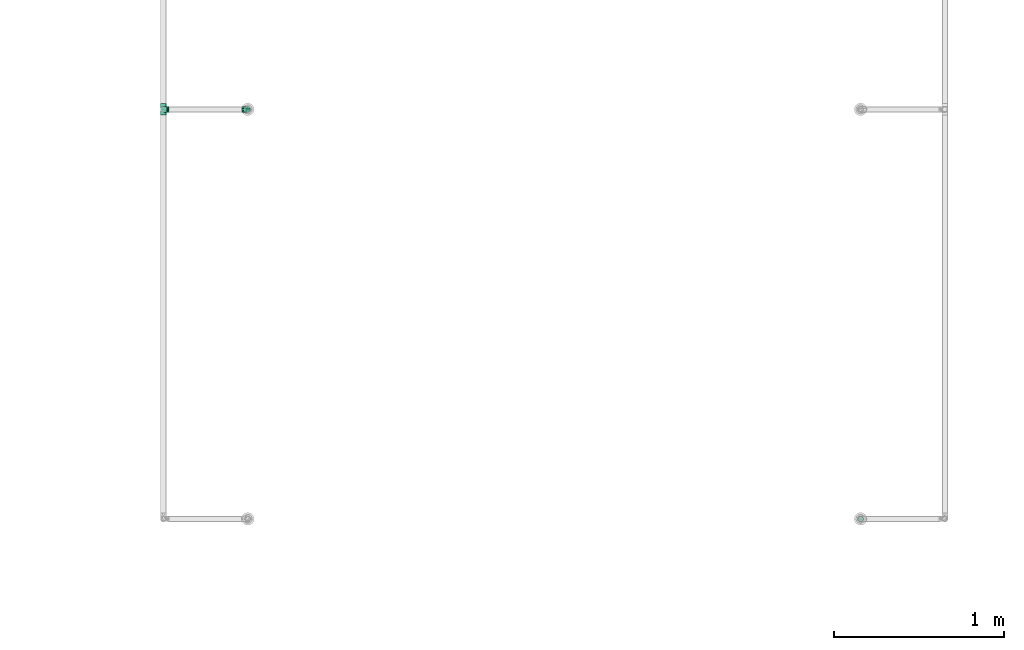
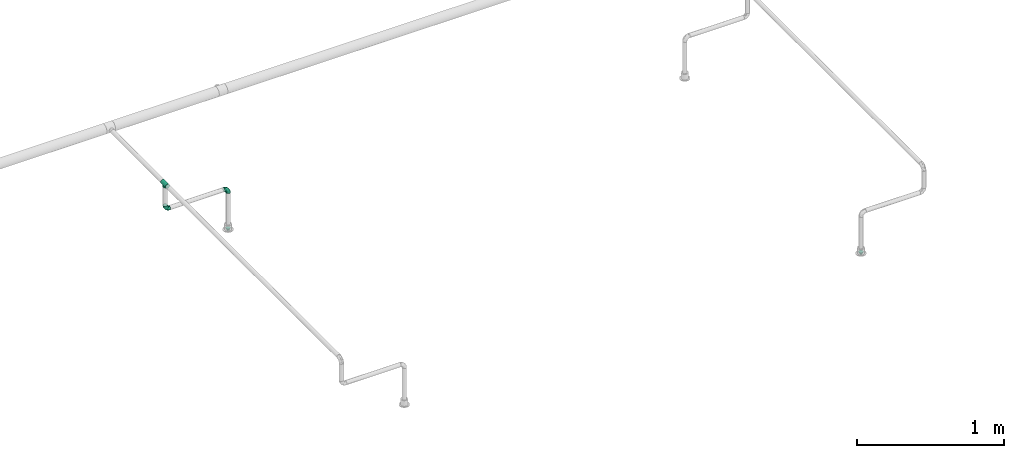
# One storey, part 75 of 95: 5 flow fittings.
"""IFC2X3 building model written with IfcOpenShell, lengths in millimetres."""

from ifc_helpers import new_model, entity, si_unit, converted_unit, derived_unit, direction, frame, origin_with_axes, place, context, subcontext, project, spatial, open_shell, surface_model, source, transform, mapped, type_object, element, save


model = new_model("IFC2X3")

# Units and contexts
model_context = context("Model", 3, precision=0.01, world=frame((0.0, 4.29681676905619e-09, 0.0)), true_north=direction((4.01073788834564e-13, 1.0)))
plan_context = context("Plan", 3, precision=0.01, world=frame((0.0, 4.29681676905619e-09, 0.0)), true_north=direction((4.01073788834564e-13, 1.0)))
body_context = subcontext(model_context, "Body", "Model", "MODEL_VIEW")
ifc_project = project(units=[converted_unit("PLANEANGLEUNIT", "DEGREE", entity("IfcPositiveLengthMeasure", 0.0174532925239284), si_unit("PLANEANGLEUNIT", "RADIAN"), dimensions=[0, 0, 0, 0, 0, 0, 0]), si_unit("AREAUNIT", "SQUARE_METRE"), si_unit("LENGTHUNIT", "METRE", prefix="MILLI"), si_unit("MASSUNIT", "GRAM", prefix="KILO"), si_unit("POWERUNIT", "WATT"), si_unit("PRESSUREUNIT", "PASCAL"), si_unit("FORCEUNIT", "NEWTON", prefix="KILO"), si_unit("ELECTRICVOLTAGEUNIT", "VOLT"), si_unit("ELECTRICCURRENTUNIT", "AMPERE"), si_unit("THERMODYNAMICTEMPERATUREUNIT", "DEGREE_CELSIUS"), si_unit("TIMEUNIT", "SECOND"), si_unit("VOLUMEUNIT", "CUBIC_METRE"), derived_unit("LINEARVELOCITYUNIT", [(si_unit("LENGTHUNIT", "METRE"), 1), (si_unit("TIMEUNIT", "SECOND"), -1)]), derived_unit("VOLUMETRICFLOWRATEUNIT", [(si_unit("VOLUMEUNIT", "CUBIC_METRE"), 1), (si_unit("TIMEUNIT", "SECOND"), -1)]), derived_unit("THERMALTRANSMITTANCEUNIT", [(si_unit("POWERUNIT", "WATT"), 1), (si_unit("THERMODYNAMICTEMPERATUREUNIT", "KELVIN"), -1), (si_unit("AREAUNIT", "SQUARE_METRE"), -1)]), derived_unit("SOUNDPRESSUREUNIT", [(si_unit("PRESSUREUNIT", "PASCAL"), 1)])], contexts=[model_context, plan_context])

# Site, building, storey
site_placement = place(None, frame((0.0, -4.29681676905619e-09, 0.0), z_axis=(0.0, 0.0, 1.0), x_axis=(1.0, 0.0, 0.0)))
site = spatial("IfcSite", under=ifc_project, at=site_placement, CompositionType="ELEMENT")
building_placement = place(site_placement, frame((0.0, 4.29681676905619e-09, 0.0), z_axis=(0.0, 0.0, 1.0), x_axis=(1.0, 0.0, 0.0)))
building = spatial("IfcBuilding", under=site, at=building_placement, Name="mc-building", CompositionType="ELEMENT")
storey_placement = place(building_placement, frame((0.0, 0.0, 210900.0), z_axis=(0.0, 0.0, 1.0), x_axis=(1.0, 0.0, 0.0)))
storey = spatial("IfcBuildingStorey", under=building, at=storey_placement, Name="Nivå F", CompositionType="ELEMENT", Elevation=210900.0)

# Flow fittings
pipe_fitting_type_1 = type_object("IfcPipeFittingType", Name="magi_pipe_fe_reducer_centric_short_NOR", PredefinedType="TRANSITION")
shared_shape_1 = source(origin_with_axes(), body_context, "Body", "SurfaceModel", [
    surface_model("IfcShellBasedSurfaceModel", [(14.4, 5.35, -9.26647), (14.4, 0.0, -10.7), (14.4, 2.76936, -10.33541), (14.4, 10.33541, -2.76936), (14.4, 7.56604, -7.56604), (14.4, -10.33541, -2.76936), (14.4, 9.26647, -5.35), (14.4, 0.0, 10.7), (14.4, -5.35, -9.26647), (14.4, -2.76936, -10.33541), (14.4, -7.56604, -7.56604), (14.4, -9.26647, -5.35), (14.4, 10.7, 0.0), (14.4, 10.33541, 2.76936), (14.4, 9.26647, 5.35), (14.4, 7.56604, 7.56604), (14.4, 2.76936, 10.33541), (14.4, 5.35, 9.26647), (14.4, -10.33541, 2.76936), (14.4, -7.56604, 7.56604), (14.4, -9.26647, 5.35), (14.4, -10.7, 0.0), (14.4, -2.76936, 10.33541), (14.4, -5.35, 9.26647), (12.4, 2.76936, 10.33541), (12.4, -10.33541, -2.76936), (12.4, 0.0, 10.7), (12.4, 5.35, 9.26647), (12.4, 7.56604, 7.56604), (12.4, 9.26647, 5.35), (12.4, 10.33541, 2.76936), (12.4, -10.33541, 2.76936), (12.4, -2.76936, 10.33541), (12.4, -7.56604, 7.56604), (12.4, -5.35, 9.26647), (12.4, -9.26647, 5.35), (12.4, -10.7, 0.0), (12.4, 10.33541, -2.76936), (12.4, 5.35, -9.26647), (12.4, 9.26647, -5.35), (12.4, 7.56604, -7.56604), (12.4, 2.76936, -10.33541), (12.4, -9.26647, -5.35), (12.4, -5.35, -9.26647), (12.4, -7.56604, -7.56604), (12.4, 0.0, -10.7), (12.4, -2.76936, -10.33541), (12.4, 10.7, 0.0), (-2.0, 11.9501, 11.9501), (-2.0, 0.0, 16.9), (-2.0, 4.37404, 16.32415), (-2.0, 8.45, 14.63583), (-2.0, 14.63583, 8.45), (-2.0, 16.32415, 4.37404), (-2.0, -16.32415, 4.37404), (-2.0, -8.45, 14.63583), (-2.0, -14.63583, 8.45), (-2.0, -11.9501, 11.9501), (-2.0, -4.37404, 16.32415), (-2.0, -16.32415, -4.37404), (-2.0, -16.9, 0.0), (-2.0, -8.45, -14.63583), (-2.0, 16.32415, -4.37404), (-2.0, 11.9501, -11.9501), (-2.0, 14.63583, -8.45), (-2.0, 8.45, -14.63583), (-2.0, 4.37404, -16.32415), (-2.0, 0.0, -16.9), (-2.0, -11.9501, -11.9501), (-2.0, -14.63583, -8.45), (-2.0, -4.37404, -16.32415), (-2.0, 16.9, 0.0), (0.0, 4.37404, -16.32415), (0.0, 8.45, -14.63583), (0.0, 11.9501, -11.9501), (0.0, 0.0, -16.9), (0.0, 16.32415, -4.37404), (0.0, 16.32415, 4.37404), (0.0, 14.63583, -8.45), (0.0, -8.45, -14.63583), (0.0, -4.37404, -16.32415), (0.0, -11.9501, -11.9501), (0.0, -16.32415, -4.37404), (0.0, -14.63583, -8.45), (0.0, -16.32415, 4.37404), (0.0, 16.9, 0.0), (0.0, 14.63583, 8.45), (0.0, 11.9501, 11.9501), (0.0, 4.37404, 16.32415), (0.0, 8.45, 14.63583), (0.0, 0.0, 16.9), (0.0, -14.63583, 8.45), (0.0, -16.9, 0.0), (0.0, -8.45, 14.63583), (0.0, -11.9501, 11.9501), (0.0, -4.37404, 16.32415), (12.4, 9.3625, -2.31662), (0.0, 14.42505, -5.97505), (0.0, 15.66253, -2.98753), (12.4, -6.6875, -6.94985), (0.0, -13.18758, -8.96258), (0.0, 2.98753, -15.66253), (12.4, 0.0, -9.26647), (12.4, 6.6875, -6.94985), (0.0, 8.96258, -13.18758), (12.4, -9.3625, -2.31662), (0.0, -15.66253, -2.98753), (0.0, -14.42505, -5.97505), (0.0, 5.97505, -14.42505), (0.0, -2.98753, -15.66253), (0.0, -8.96258, -13.18758), (0.0, 13.18758, -8.96258), (12.4, 8.025, -4.63324), (12.4, -2.675, -9.26647), (12.4, 2.675, -9.26647), (0.0, -5.97505, -14.42505), (12.4, -8.025, -4.63324), (12.4, -9.3625, 2.31662), (0.0, -14.42505, 5.97505), (0.0, -15.66253, 2.98753), (12.4, 6.6875, 6.94985), (0.0, 13.18758, 8.96258), (0.0, -2.98753, 15.66253), (12.4, 0.0, 9.26647), (12.4, -6.6875, 6.94985), (0.0, -8.96258, 13.18758), (12.4, 9.3625, 2.31662), (0.0, 15.66253, 2.98753), (0.0, 14.42505, 5.97505), (0.0, -5.97505, 14.42505), (0.0, 2.98753, 15.66253), (0.0, 8.96258, 13.18758), (0.0, -13.18758, 8.96258), (12.4, -8.025, 4.63324), (12.4, 2.675, 9.26647), (12.4, -2.675, 9.26647), (0.0, 5.97505, 14.42505), (12.4, 8.025, 4.63324)], [open_shell([[[0, 1, 2]], [[3, 0, 4]], [[5, 0, 3]], [[3, 4, 6]], [[7, 5, 3]], [[1, 8, 9]], [[1, 0, 8]], [[10, 5, 11]], [[5, 10, 8]], [[0, 5, 8]], [[3, 12, 13]], [[13, 14, 15]], [[13, 15, 16]], [[7, 3, 16]], [[16, 15, 17]], [[7, 18, 5]], [[18, 19, 20]], [[21, 5, 18]], [[19, 22, 23]], [[22, 19, 18]], [[7, 22, 18]], [[13, 16, 3]], [[24, 25, 26]], [[27, 25, 24]], [[28, 29, 30]], [[28, 25, 27]], [[31, 26, 25]], [[32, 33, 34]], [[33, 32, 31]], [[33, 31, 35]], [[32, 26, 31]], [[31, 25, 36]], [[30, 37, 28]], [[25, 28, 37]], [[38, 37, 39]], [[37, 38, 25]], [[38, 39, 40]], [[41, 25, 38]], [[42, 43, 44]], [[43, 42, 25]], [[43, 45, 46]], [[43, 25, 41]], [[41, 45, 43]], [[37, 30, 47]], [[25, 5, 36]], [[42, 11, 25]], [[8, 44, 43]], [[42, 44, 10]], [[9, 43, 46]], [[25, 11, 5]], [[5, 21, 36]], [[9, 8, 43]], [[10, 44, 8]], [[10, 11, 42]], [[1, 9, 46]], [[46, 45, 1]], [[41, 2, 45]], [[38, 0, 41]], [[6, 40, 39]], [[38, 40, 4]], [[3, 39, 37]], [[38, 4, 0]], [[0, 2, 41]], [[12, 3, 37]], [[6, 39, 3]], [[6, 4, 40]], [[47, 12, 37]], [[45, 2, 1]], [[30, 13, 47]], [[29, 14, 30]], [[17, 28, 27]], [[29, 28, 15]], [[16, 27, 24]], [[30, 14, 13]], [[13, 12, 47]], [[16, 17, 27]], [[15, 28, 17]], [[15, 14, 29]], [[7, 16, 24]], [[24, 26, 7]], [[32, 22, 26]], [[34, 23, 32]], [[20, 33, 35]], [[34, 33, 19]], [[18, 35, 31]], [[34, 19, 23]], [[23, 22, 32]], [[21, 18, 31]], [[20, 35, 18]], [[20, 19, 33]], [[36, 21, 31]], [[26, 22, 7]], [[48, 49, 50]], [[48, 50, 51]], [[48, 52, 53]], [[48, 53, 49]], [[49, 53, 54]], [[55, 56, 57]], [[55, 58, 49]], [[56, 55, 49]], [[49, 54, 56]], [[54, 59, 60]], [[54, 53, 61]], [[53, 62, 63]], [[63, 62, 64]], [[63, 65, 66]], [[61, 53, 63]], [[67, 63, 66]], [[59, 68, 69]], [[68, 59, 61]], [[61, 67, 70]], [[59, 54, 61]], [[63, 67, 61]], [[53, 71, 62]], [[72, 73, 74]], [[75, 72, 74]], [[74, 76, 77]], [[76, 74, 78]], [[74, 77, 79]], [[75, 79, 80]], [[75, 74, 79]], [[81, 82, 83]], [[82, 81, 79]], [[79, 84, 82]], [[77, 76, 85]], [[77, 86, 87]], [[77, 87, 88]], [[88, 84, 79]], [[88, 87, 89]], [[84, 88, 90]], [[90, 91, 84]], [[92, 82, 84]], [[91, 93, 94]], [[91, 90, 93]], [[93, 90, 95]], [[79, 77, 88]], [[59, 82, 60]], [[69, 83, 59]], [[79, 68, 61]], [[69, 68, 81]], [[80, 61, 70]], [[59, 83, 82]], [[82, 92, 60]], [[80, 79, 61]], [[81, 68, 79]], [[81, 83, 69]], [[75, 80, 70]], [[70, 67, 75]], [[66, 72, 67]], [[65, 73, 66]], [[78, 63, 64]], [[65, 63, 74]], [[76, 64, 62]], [[65, 74, 73]], [[73, 72, 66]], [[85, 76, 62]], [[78, 64, 76]], [[78, 74, 63]], [[71, 85, 62]], [[67, 72, 75]], [[53, 77, 71]], [[52, 86, 53]], [[89, 48, 51]], [[52, 48, 87]], [[88, 51, 50]], [[53, 86, 77]], [[77, 85, 71]], [[88, 89, 51]], [[87, 48, 89]], [[87, 86, 52]], [[90, 88, 50]], [[50, 49, 90]], [[58, 95, 49]], [[55, 93, 58]], [[91, 57, 56]], [[55, 57, 94]], [[84, 56, 54]], [[55, 94, 93]], [[93, 95, 58]], [[92, 84, 54]], [[91, 56, 84]], [[91, 94, 57]], [[60, 92, 54]], [[49, 95, 90]], [[27, 34, 47]], [[47, 34, 43]], [[43, 38, 47]], [[43, 34, 36]], [[90, 87, 94]], [[92, 94, 87]], [[87, 74, 92]], [[75, 92, 74]], [[81, 92, 75]], [[74, 87, 85]], [[96, 97, 98]], [[81, 99, 100]], [[101, 102, 75]], [[98, 85, 47]], [[74, 103, 104]], [[104, 103, 38]], [[105, 106, 107]], [[38, 108, 104]], [[102, 109, 75]], [[110, 99, 81]], [[47, 96, 98]], [[103, 111, 112]], [[109, 102, 113]], [[36, 92, 106]], [[102, 101, 114]], [[110, 115, 43]], [[96, 112, 97]], [[107, 116, 105]], [[36, 106, 105]], [[113, 115, 109]], [[43, 115, 113]], [[116, 107, 100]], [[108, 38, 114]], [[111, 103, 74]], [[111, 97, 112]], [[99, 110, 43]], [[116, 100, 99]], [[101, 108, 114]], [[117, 118, 119]], [[87, 120, 121]], [[122, 123, 90]], [[119, 92, 36]], [[94, 124, 125]], [[125, 124, 34]], [[126, 127, 128]], [[34, 129, 125]], [[123, 130, 90]], [[131, 120, 87]], [[36, 117, 119]], [[124, 132, 133]], [[130, 123, 134]], [[47, 85, 127]], [[123, 122, 135]], [[131, 136, 27]], [[117, 133, 118]], [[128, 137, 126]], [[47, 127, 126]], [[134, 136, 130]], [[27, 136, 134]], [[137, 128, 121]], [[129, 34, 135]], [[132, 124, 94]], [[132, 118, 133]], [[120, 131, 27]], [[137, 121, 120]], [[122, 129, 135]]])]),
])
for number, where, z_axis, x_axis, name in (
    (1, (523297.57166, 461000.75899, 3769.25200000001), (0.0, -1.0, 0.0), (0.0, 0.0, -1.0), "magi_pipe_fe_reducer_centric_short_NOR"),
    (2, (526893.09321, 458598.02191, 3769.25200000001), (0.0, -1.0, 0.0), (0.0, 0.0, -1.0), "magi_pipe_fe_reducer_centric_short_NOR"),
):
    element("IfcFlowFitting", number, at=place(storey_placement, frame(where, z_axis=z_axis, x_axis=x_axis)), inside=storey, type_object=pipe_fitting_type_1, Name=name, context=body_context, shape_type="MappedRepresentation", body=[
        mapped(shared_shape_1, transform((0.0, 0.0, 0.0), scale=1.0)),
    ])
pipe_fitting_type_2 = type_object("IfcPipeFittingType", Name="magi_pipe_fe_elbow_short_001", PredefinedType="BEND")
shared_shape_2 = source(origin_with_axes(), body_context, "Body", "SurfaceModel", [
    surface_model("IfcShellBasedSurfaceModel", [(-33.8, 8.45, -14.63583), (-33.8, 4.37404, -16.32415), (-33.8, 11.9501, -11.9501), (-33.8, -11.9501, -11.9501), (-33.8, -14.63583, -8.45), (-33.8, -8.45, -14.63583), (-33.8, 0.0, -16.9), (-33.8, -4.37404, -16.32415), (-33.8, -4.37404, 16.32415), (-33.8, 0.0, 16.9), (-33.8, -8.45, 14.63583), (-33.8, 16.32415, -4.37404), (-33.8, 14.63583, -8.45), (-33.8, -16.32415, -4.37404), (-33.8, -16.9, 0.0), (-33.8, -16.32415, 4.37404), (-33.8, 11.9501, 11.9501), (-33.8, 14.63583, 8.45), (-33.8, 16.32415, 4.37404), (-33.8, 4.37404, 16.32415), (-33.8, 8.45, 14.63583), (-33.8, -14.63583, 8.45), (-33.8, -11.9501, 11.9501), (-33.8, 16.9, 0.0), (-11.9501, 33.8, -11.9501), (0.0, 33.8, -16.9), (-4.37404, 33.8, -16.32415), (-8.45, 33.8, -14.63583), (-14.63583, 33.8, -8.45), (-16.32415, 33.8, -4.37404), (14.63583, 33.8, -8.45), (8.45, 33.8, 14.63583), (16.32415, 33.8, -4.37404), (8.45, 33.8, -14.63583), (11.9501, 33.8, -11.9501), (4.37404, 33.8, -16.32415), (16.32415, 33.8, 4.37404), (16.9, 33.8, 0.0), (-11.9501, 33.8, 11.9501), (-16.32415, 33.8, 4.37404), (-14.63583, 33.8, 8.45), (-8.45, 33.8, 14.63583), (-4.37404, 33.8, 16.32415), (11.9501, 33.8, 11.9501), (14.63583, 33.8, 8.45), (0.0, 33.8, 16.9), (4.37404, 33.8, 16.32415), (-16.9, 33.8, 0.0), (-24.79389, -13.12945, 9.48721), (-22.19287, -9.75018, 12.59315), (-24.09897, -14.97035, 0.0), (-14.93934, -10.76256, 8.5297), (-22.46095, -14.75051, 5.27077), (14.75051, 22.46094, 5.27077), (11.9251, 13.23888, 4.33236), (13.04069, 14.39795, 0.0), (7.71387, 13.68847, 11.55891), (9.75018, 22.19287, 12.59315), (4.10169, 13.0571, 14.04018), (-24.84007, -6.39063, 15.2048), (-25.81779, -2.23879, 16.61097), (-23.66549, 2.59054, 16.87119), (-26.50418, 14.06512, 11.08152), (-24.21253, 17.66365, 7.72657), (-29.58514, 15.86957, 7.00283), (-6.17382, -7.5455, 0.0), (-13.23888, -11.9251, 4.33236), (-14.39795, -13.04069, 0.0), (-17.81434, 18.87373, 11.97104), (-6.30846, 29.15138, 15.82987), (-2.31622, 25.28002, 16.85849), (-29.23923, 10.23435, 13.77053), (-1.45439, -2.85688, 7.61475), (-0.28326, 0.34872, 10.09509), (-5.74484, -4.04709, 10.4122), (-4.41137, 11.31918, 16.59407), (-8.39727, 3.10034, 15.7812), (-1.72649, 9.1306, 15.53089), (-17.39909, 24.75344, 7.64977), (-26.19233, 20.0512, 0.0), (-28.14518, 17.29657, 4.25857), (-26.05147, 6.6281, 15.96447), (-5.87354, 16.61944, 16.86968), (-12.51807, 12.51807, 16.48937), (-10.06312, 7.38516, 16.81295), (-3.01882, 3.01882, 13.81718), (-13.0571, -4.10169, 14.04018), (-16.82553, -0.15166, 16.38038), (10.76256, 14.93934, 8.5297), (13.12945, 24.79389, 9.48721), (6.39063, 24.84007, 15.2048), (2.23879, 25.81779, 16.61097), (-13.68847, -7.71387, 11.55891), (14.97035, 24.09897, 0.0), (-7.30894, 22.89991, 16.09489), (-10.67958, 26.17414, 14.008), (-12.78295, 18.26924, 15.06066), (-13.88562, 22.45231, 12.93244), (-18.04944, 15.16501, 14.04434), (-23.11658, 20.08178, 4.02986), (-21.84989, 21.84989, 0.0), (-18.55817, 25.48277, 3.93065), (-13.95142, 26.94732, 11.03289), (-18.57098, 7.23906, 16.59756), (-16.58335, 4.14122, 16.89279), (-17.96666, 11.46709, 15.63151), (-9.84453, 17.54304, 16.18938), (0.15166, 16.82553, 16.38038), (-23.27207, 11.47201, 14.23154), (3.84842, 5.86994, 10.70473), (-8.0212, -7.54413, 7.93275), (1.00345, -2.19508, 4.57414), (5.13203, 3.01004, 5.90201), (5.24161, 1.7543, 2.53265), (8.70457, 7.04947, 3.99182), (-20.0512, 26.19233, 0.0), (8.4852, 8.76699, 7.09296), (-4.55488, -6.72064, 4.90681), (2.05031, -2.05031, 0.0), (7.5455, 6.17382, 0.0), (-26.75399, 2.1369, -16.845), (-14.61995, 24.73803, -11.27736), (-28.45274, -13.45335, -9.81895), (-26.00469, 6.63555, -15.96645), (-23.06726, 20.04573, -4.26202), (-13.80647, -4.26506, -14.17873), (-14.67501, -0.21081, -16.07388), (-6.7902, -0.2828, -13.8478), (-24.53586, 11.08096, -14.13417), (-26.72048, 14.00837, -11.05776), (10.0967, 24.44989, -12.75976), (5.83237, 21.40218, -15.03047), (6.66249, 28.54238, -15.38093), (-20.38182, 15.48705, -12.74596), (12.53268, 21.23441, -9.15363), (12.54494, 15.67504, -5.54878), (9.7522, 12.89279, -8.66343), (-15.65186, 19.64213, -13.01327), (-12.03528, 20.66498, -14.67665), (-15.61907, 15.61906, -14.83879), (-25.56551, -15.26206, 0.0), (-24.65452, -15.12934, -5.50955), (13.45335, 28.45274, -9.81895), (15.12934, 24.65452, -5.50955), (-7.35442, -8.31014, -5.65563), (-15.67504, -12.54494, -5.54878), (-24.44989, -10.0967, -12.75976), (0.16522, 0.41303, -9.71728), (-5.70658, -5.33066, -8.89288), (-5.13869, -2.37198, -11.53565), (-21.23441, -12.53268, -9.15363), (0.71146, 7.93863, -14.09382), (0.21081, 14.67501, -16.07388), (3.49291, 14.42772, -14.76381), (-24.89911, -2.13088, -16.591), (-28.54238, -6.66249, -15.38093), (-18.44386, -7.71663, -13.26957), (2.13088, 24.89911, -16.591), (-28.64342, 17.44413, -2.89318), (1.70017, -1.28722, -5.09504), (-16.57067, 26.81947, -7.36596), (-17.69055, 27.4263, -3.76405), (-12.89279, -9.7522, -8.66343), (-5.96611, 5.96611, -15.95814), (-20.53709, 20.09345, -8.28985), (-2.1369, 26.75399, -16.845), (-6.89872, 24.58781, -16.02578), (-10.60739, 26.53157, -13.98044), (-21.40218, -5.83237, -15.03047), (2.93192, 5.89627, -11.55917), (6.89393, 12.61842, -11.82233), (5.58056, 5.95325, -8.79455), (-3.99512, 18.61798, -16.89635), (8.31014, 7.35442, -5.65563), (-9.1383, 9.86148, -16.89041), (-9.99983, 16.02119, -16.39699), (-16.68576, 9.78031, -16.34199), (-27.01915, 16.61158, -7.12979), (15.26206, 25.56551, 0.0), (-18.61798, 3.99512, -16.89635), (-19.37495, 27.82495, 0.0), (-12.61842, -6.89393, -11.82233), (-18.84705, 19.14018, -10.96545)], [open_shell([[[0, 1, 2]], [[3, 4, 5]], [[6, 7, 5]], [[8, 9, 10]], [[1, 6, 2]], [[11, 12, 2]], [[4, 2, 6]], [[2, 13, 10]], [[5, 4, 6]], [[2, 4, 13]], [[14, 15, 13]], [[11, 2, 16]], [[11, 17, 18]], [[11, 16, 17]], [[19, 20, 16]], [[16, 2, 10]], [[19, 16, 10]], [[21, 22, 15]], [[22, 13, 15]], [[22, 10, 13]], [[10, 9, 19]], [[11, 18, 23]], [[24, 25, 26]], [[24, 26, 27]], [[24, 28, 29]], [[25, 24, 30]], [[31, 32, 24]], [[33, 30, 34]], [[33, 35, 25]], [[25, 30, 33]], [[32, 30, 24]], [[32, 36, 37]], [[38, 24, 29]], [[39, 40, 29]], [[40, 38, 29]], [[38, 41, 42]], [[38, 31, 24]], [[31, 38, 42]], [[36, 43, 44]], [[36, 32, 43]], [[31, 45, 46]], [[32, 31, 43]], [[42, 45, 31]], [[39, 29, 47]], [[22, 48, 49]], [[15, 14, 50]], [[51, 48, 52]], [[53, 54, 55]], [[48, 22, 21]], [[15, 52, 21]], [[56, 57, 58]], [[49, 10, 22]], [[49, 59, 10]], [[9, 60, 61]], [[62, 63, 64]], [[65, 66, 67]], [[57, 43, 31]], [[62, 68, 63]], [[42, 69, 70]], [[20, 71, 16]], [[8, 60, 9]], [[72, 73, 74]], [[75, 76, 77]], [[16, 62, 17]], [[40, 39, 78]], [[79, 23, 80]], [[64, 18, 17]], [[9, 61, 19]], [[19, 81, 20]], [[82, 83, 84]], [[74, 85, 86]], [[59, 86, 87]], [[88, 89, 57]], [[90, 31, 46]], [[44, 53, 36]], [[46, 45, 91]], [[54, 53, 88]], [[44, 89, 53]], [[92, 86, 49]], [[89, 44, 43]], [[10, 59, 8]], [[53, 55, 93]], [[93, 36, 53]], [[66, 52, 67]], [[94, 82, 70]], [[95, 96, 94]], [[97, 98, 96]], [[79, 99, 100]], [[41, 38, 95]], [[101, 100, 99]], [[68, 78, 63]], [[42, 41, 69]], [[23, 18, 80]], [[95, 94, 69]], [[78, 101, 99]], [[38, 102, 95]], [[70, 45, 42]], [[97, 95, 102]], [[15, 50, 52]], [[90, 57, 31]], [[57, 90, 58]], [[81, 19, 61]], [[103, 104, 84]], [[105, 81, 103]], [[38, 40, 102]], [[106, 96, 83]], [[94, 106, 82]], [[91, 70, 107]], [[71, 62, 16]], [[62, 108, 98]], [[86, 59, 49]], [[67, 52, 50]], [[60, 59, 87]], [[92, 49, 51]], [[86, 85, 76]], [[91, 90, 46]], [[37, 36, 93]], [[107, 77, 58]], [[107, 58, 90]], [[58, 85, 109]], [[110, 74, 92]], [[72, 74, 110]], [[66, 51, 52]], [[72, 111, 112]], [[113, 114, 112]], [[56, 88, 57]], [[52, 48, 21]], [[49, 48, 51]], [[57, 89, 43]], [[53, 89, 88]], [[103, 81, 61]], [[71, 81, 108]], [[18, 64, 80]], [[63, 78, 99]], [[47, 115, 101]], [[101, 115, 100]], [[40, 78, 102]], [[68, 102, 78]], [[97, 96, 95]], [[105, 98, 108]], [[103, 84, 83]], [[107, 70, 82]], [[76, 84, 87]], [[82, 84, 75]], [[70, 91, 45]], [[90, 91, 107]], [[59, 60, 8]], [[61, 60, 87]], [[73, 85, 74]], [[109, 112, 116]], [[103, 61, 104]], [[105, 103, 83]], [[96, 105, 83]], [[81, 105, 108]], [[96, 98, 105]], [[62, 98, 68]], [[61, 87, 104]], [[87, 84, 104]], [[86, 76, 87]], [[77, 76, 85]], [[58, 77, 85]], [[75, 77, 107]], [[82, 75, 107]], [[76, 75, 84]], [[81, 71, 20]], [[62, 71, 108]], [[95, 69, 41]], [[70, 69, 94]], [[62, 64, 17]], [[80, 63, 99]], [[63, 80, 64]], [[80, 99, 79]], [[66, 65, 117]], [[110, 66, 117]], [[112, 114, 116]], [[118, 117, 65]], [[110, 92, 51]], [[112, 111, 113]], [[119, 55, 54]], [[74, 86, 92]], [[58, 109, 56]], [[116, 56, 109]], [[66, 110, 51]], [[72, 110, 117]], [[111, 72, 117]], [[73, 112, 109]], [[117, 118, 111]], [[113, 111, 118]], [[118, 119, 113]], [[114, 119, 54]], [[119, 114, 113]], [[116, 54, 88]], [[54, 116, 114]], [[116, 88, 56]], [[112, 73, 72]], [[85, 73, 109]], [[78, 39, 101]], [[47, 101, 39]], [[102, 68, 97]], [[97, 68, 98]], [[82, 106, 83]], [[94, 96, 106]], [[1, 120, 6]], [[28, 24, 121]], [[3, 122, 4]], [[0, 123, 1]], [[100, 124, 79]], [[125, 126, 127]], [[128, 2, 129]], [[130, 131, 132]], [[128, 129, 133]], [[134, 135, 136]], [[137, 138, 139]], [[128, 0, 2]], [[67, 140, 141]], [[134, 142, 143]], [[141, 13, 4]], [[144, 65, 145]], [[146, 3, 5]], [[147, 148, 149]], [[145, 141, 150]], [[151, 152, 153]], [[154, 7, 6]], [[5, 155, 146]], [[150, 146, 156]], [[155, 5, 7]], [[143, 135, 134]], [[35, 157, 25]], [[23, 79, 158]], [[148, 159, 144]], [[160, 161, 29]], [[145, 162, 144]], [[163, 152, 151]], [[29, 28, 160]], [[121, 164, 160]], [[33, 34, 130]], [[25, 165, 26]], [[26, 165, 166]], [[142, 34, 30]], [[24, 27, 167]], [[124, 161, 164]], [[157, 35, 132]], [[155, 154, 168]], [[123, 0, 128]], [[169, 170, 171]], [[172, 157, 152]], [[26, 166, 27]], [[132, 35, 33]], [[142, 130, 34]], [[168, 154, 126]], [[136, 135, 173]], [[133, 137, 139]], [[2, 12, 129]], [[170, 131, 130]], [[30, 32, 143]], [[172, 174, 175]], [[176, 123, 128]], [[158, 177, 11]], [[135, 55, 119]], [[167, 27, 166]], [[175, 166, 172]], [[137, 167, 138]], [[122, 141, 4]], [[140, 14, 13]], [[32, 37, 178]], [[170, 130, 134]], [[152, 157, 131]], [[165, 157, 172]], [[153, 170, 151]], [[152, 163, 174]], [[168, 125, 156]], [[122, 146, 150]], [[120, 154, 6]], [[179, 174, 126]], [[179, 126, 154]], [[126, 163, 127]], [[162, 145, 150]], [[140, 13, 141]], [[32, 178, 143]], [[55, 143, 178]], [[177, 129, 12]], [[128, 133, 139]], [[176, 128, 139]], [[120, 123, 179]], [[121, 160, 28]], [[161, 100, 180]], [[166, 175, 138]], [[121, 24, 167]], [[161, 47, 29]], [[79, 124, 158]], [[124, 164, 177]], [[161, 124, 100]], [[136, 171, 170]], [[127, 163, 151]], [[147, 171, 159]], [[148, 144, 162]], [[127, 151, 169]], [[127, 181, 125]], [[129, 177, 164]], [[12, 11, 177]], [[159, 65, 144]], [[67, 141, 145]], [[143, 55, 135]], [[135, 119, 173]], [[123, 120, 1]], [[154, 120, 179]], [[157, 165, 25]], [[166, 165, 172]], [[172, 152, 174]], [[176, 139, 175]], [[126, 174, 163]], [[176, 174, 179]], [[174, 176, 175]], [[123, 176, 179]], [[150, 181, 162]], [[127, 149, 181]], [[181, 148, 162]], [[159, 148, 147]], [[171, 136, 173]], [[170, 134, 136]], [[159, 171, 173]], [[171, 147, 169]], [[169, 147, 149]], [[151, 170, 169]], [[164, 182, 129]], [[182, 121, 137]], [[181, 149, 148]], [[169, 149, 127]], [[182, 137, 133]], [[167, 137, 121]], [[166, 138, 167]], [[175, 139, 138]], [[129, 182, 133]], [[121, 182, 164]], [[161, 160, 164]], [[47, 161, 180]], [[177, 158, 124]], [[23, 158, 11]], [[130, 132, 33]], [[157, 132, 131]], [[143, 142, 30]], [[130, 142, 134]], [[154, 155, 7]], [[146, 155, 168]], [[146, 122, 3]], [[141, 122, 150]], [[152, 131, 153]], [[159, 119, 118]], [[67, 145, 65]], [[170, 153, 131]], [[119, 159, 173]], [[159, 118, 65]], [[156, 125, 181]], [[126, 125, 168]], [[150, 156, 181]], [[168, 156, 146]]])]),
])
for number, where, z_axis, x_axis, name in (
    (3, (523297.57166, 461000.75899, 4100.0), (0.0, -1.0, 0.0), (0.0, 0.0, 1.0), "magi_pipe_fe_elbow_short_001"),
    (4, (522802.76487, 461000.75899, 4100.0), (0.0, -1.0, 0.0), (0.0, 0.0, -1.0), "magi_pipe_fe_elbow_short_001"),
):
    element("IfcFlowFitting", number, at=place(storey_placement, frame(where, z_axis=z_axis, x_axis=x_axis)), inside=storey, type_object=pipe_fitting_type_2, Name=name, context=body_context, shape_type="MappedRepresentation", body=[
        mapped(shared_shape_2, transform((0.0, 0.0, 0.0), scale=1.0)),
    ])
pipe_fitting_type_3 = type_object("IfcPipeFittingType", Name="magi_pipe_fe_tee_centric_90_NOR", PredefinedType="JUNCTION")
shared_shape_3 = source(origin_with_axes(), body_context, "Body", "SurfaceModel", [
    surface_model("IfcShellBasedSurfaceModel", [(-33.8, 4.37404, -16.32415), (-33.8, 0.0, -16.9), (-33.8, 16.32415, -4.37404), (-33.8, 8.45, -14.63583), (-33.8, 11.9501, -11.9501), (-33.8, 14.63583, -8.45), (-33.8, -16.9, 0.0), (-33.8, -11.9501, -11.9501), (-33.8, -14.63583, -8.45), (-33.8, -8.45, -14.63583), (-33.8, -4.37404, -16.32415), (-33.8, -16.32415, -4.37404), (-33.8, 14.63583, 8.45), (-33.8, 16.32415, 4.37404), (-33.8, -8.45, 14.63583), (-33.8, 8.45, 14.63583), (-33.8, 11.9501, 11.9501), (-33.8, 4.37404, 16.32415), (-33.8, 0.0, 16.9), (-33.8, -11.9501, 11.9501), (-33.8, -14.63583, 8.45), (-33.8, -16.32415, 4.37404), (-33.8, -4.37404, 16.32415), (-33.8, 16.9, 0.0), (33.8, 4.37404, -16.32415), (33.8, -16.9, 0.0), (33.8, 0.0, -16.9), (33.8, 14.63583, -8.45), (33.8, 8.45, -14.63583), (33.8, 16.32415, -4.37404), (33.8, 11.9501, -11.9501), (33.8, -16.32415, 4.37404), (33.8, -8.45, -14.63583), (33.8, -4.37404, -16.32415), (33.8, -11.9501, -11.9501), (33.8, -14.63583, -8.45), (33.8, -16.32415, -4.37404), (33.8, 16.32415, 4.37404), (33.8, 8.45, 14.63583), (33.8, 14.63583, 8.45), (33.8, 11.9501, 11.9501), (33.8, -8.45, 14.63583), (33.8, 4.37404, 16.32415), (33.8, -14.63583, 8.45), (33.8, -11.9501, 11.9501), (33.8, 0.0, 16.9), (33.8, -4.37404, 16.32415), (33.8, 16.9, 0.0), (16.28698, -16.28698, 4.51047), (16.9, -16.9, 0.0), (14.62704, -14.62704, 8.4652), (9.47213, -9.47213, 13.99602), (12.26343, -12.26343, 11.62834), (-16.9, -16.9, 0.0), (-16.28698, -16.28698, 4.51047), (-14.62704, -14.62704, 8.4652), (-12.26343, -12.26343, 11.62834), (-9.47213, -9.47213, 13.99602), (-6.42894, -6.42894, 15.62942), (6.42894, -6.42894, 15.62942), (3.24522, -3.24522, 16.58549), (0.0, 0.0, 16.9), (-3.24522, -3.24522, 16.58549), (3.24522, -3.24522, -16.58549), (0.0, 0.0, -16.9), (-3.24522, -3.24522, -16.58549), (-6.42894, -6.42894, -15.62942), (6.42894, -6.42894, -15.62942), (9.47213, -9.47213, -13.99602), (12.26343, -12.26343, -11.62834), (14.62704, -14.62704, -8.4652), (16.28698, -16.28698, -4.51047), (-9.47213, -9.47213, -13.99602), (-12.26343, -12.26343, -11.62834), (-16.28698, -16.28698, -4.51047), (-14.62704, -14.62704, -8.4652), (4.37404, -25.35, -16.32415), (-16.9, -25.35, 0.0), (0.0, -25.35, -16.9), (14.63583, -25.35, -8.45), (8.45, -25.35, -14.63583), (16.32415, -25.35, -4.37404), (11.9501, -25.35, -11.9501), (-11.9501, -25.35, -11.9501), (-8.45, -25.35, -14.63583), (-4.37404, -25.35, -16.32415), (-14.63583, -25.35, -8.45), (-16.32415, -25.35, -4.37404), (16.9, -25.35, 0.0), (8.45, -25.35, 14.63583), (16.32415, -25.35, 4.37404), (14.63583, -25.35, 8.45), (-8.45, -25.35, 14.63583), (11.9501, -25.35, 11.9501), (4.37404, -25.35, 16.32415), (-16.32415, -25.35, 4.37404), (-11.9501, -25.35, 11.9501), (-14.63583, -25.35, 8.45), (0.0, -25.35, 16.9), (-4.37404, -25.35, 16.32415)], [open_shell([[[0, 1, 2]], [[3, 0, 4]], [[0, 2, 5]], [[4, 0, 5]], [[6, 2, 1]], [[7, 8, 9]], [[1, 10, 9]], [[11, 6, 8]], [[1, 9, 8]], [[1, 8, 6]], [[6, 12, 2]], [[12, 13, 2]], [[14, 12, 6]], [[12, 14, 15]], [[16, 12, 15]], [[17, 15, 18]], [[19, 14, 20]], [[21, 20, 14]], [[22, 18, 14]], [[14, 6, 21]], [[14, 18, 15]], [[23, 2, 13]], [[24, 25, 26]], [[27, 24, 28]], [[27, 29, 24]], [[27, 28, 30]], [[31, 25, 24]], [[26, 32, 33]], [[26, 34, 32]], [[35, 25, 36]], [[35, 34, 26]], [[25, 35, 26]], [[24, 29, 31]], [[29, 37, 38]], [[38, 37, 39]], [[38, 31, 29]], [[38, 39, 40]], [[41, 38, 42]], [[43, 41, 44]], [[41, 43, 31]], [[41, 45, 46]], [[41, 31, 38]], [[42, 45, 41]], [[29, 47, 37]], [[31, 43, 48]], [[25, 31, 49]], [[49, 31, 48]], [[43, 50, 48]], [[44, 41, 51]], [[50, 43, 52]], [[51, 52, 44]], [[52, 43, 44]], [[53, 54, 21]], [[53, 21, 6]], [[21, 54, 20]], [[54, 55, 20]], [[56, 57, 19]], [[19, 20, 56]], [[19, 57, 14]], [[56, 20, 55]], [[14, 57, 58]], [[51, 41, 59]], [[60, 45, 61]], [[59, 46, 60]], [[46, 59, 41]], [[60, 46, 45]], [[61, 45, 42]], [[39, 37, 13]], [[16, 38, 40]], [[12, 40, 39]], [[42, 38, 15]], [[23, 37, 47]], [[62, 61, 18]], [[62, 22, 58]], [[22, 62, 18]], [[58, 22, 14]], [[61, 17, 18]], [[42, 17, 61]], [[15, 17, 42]], [[15, 38, 16]], [[12, 16, 40]], [[13, 12, 39]], [[37, 23, 13]], [[5, 27, 30]], [[23, 47, 29]], [[30, 28, 3]], [[27, 2, 29]], [[26, 33, 63]], [[26, 64, 24]], [[64, 26, 63]], [[28, 24, 0]], [[64, 0, 24]], [[4, 30, 3]], [[2, 27, 5]], [[5, 30, 4]], [[2, 23, 29]], [[65, 66, 10]], [[1, 0, 64]], [[1, 65, 10]], [[66, 9, 10]], [[0, 3, 28]], [[1, 64, 65]], [[63, 33, 67]], [[32, 34, 68]], [[69, 68, 34]], [[35, 70, 69]], [[69, 34, 35]], [[32, 68, 67]], [[36, 25, 49]], [[36, 71, 35]], [[71, 36, 49]], [[35, 71, 70]], [[72, 9, 66]], [[72, 7, 9]], [[7, 72, 73]], [[7, 73, 8]], [[74, 53, 11]], [[75, 74, 8]], [[74, 11, 8]], [[11, 53, 6]], [[75, 8, 73]], [[32, 67, 33]], [[76, 77, 78]], [[79, 76, 80]], [[79, 81, 76]], [[79, 80, 82]], [[77, 76, 81]], [[78, 83, 84]], [[84, 85, 78]], [[86, 77, 87]], [[83, 78, 86]], [[77, 86, 78]], [[81, 88, 77]], [[89, 88, 90]], [[89, 90, 91]], [[92, 77, 89]], [[89, 91, 93]], [[92, 89, 94]], [[95, 96, 97]], [[96, 95, 92]], [[92, 98, 99]], [[95, 77, 92]], [[94, 98, 92]], [[89, 77, 88]], [[77, 95, 53]], [[54, 53, 95]], [[97, 96, 56]], [[96, 92, 57]], [[95, 97, 54]], [[58, 92, 99]], [[55, 54, 97]], [[56, 55, 97]], [[58, 57, 92]], [[98, 61, 62]], [[58, 99, 62]], [[56, 96, 57]], [[62, 99, 98]], [[94, 60, 98]], [[89, 59, 94]], [[91, 90, 48]], [[52, 93, 91]], [[93, 51, 89]], [[49, 90, 88]], [[59, 60, 94]], [[51, 59, 89]], [[49, 48, 90]], [[50, 52, 91]], [[48, 50, 91]], [[51, 93, 52]], [[98, 60, 61]], [[88, 81, 49]], [[71, 49, 81]], [[79, 82, 69]], [[82, 80, 68]], [[81, 79, 71]], [[67, 80, 76]], [[70, 71, 79]], [[69, 70, 79]], [[67, 68, 80]], [[78, 64, 63]], [[67, 76, 63]], [[69, 82, 68]], [[63, 76, 78]], [[85, 65, 78]], [[84, 66, 85]], [[86, 87, 74]], [[86, 73, 83]], [[72, 84, 83]], [[53, 87, 77]], [[66, 65, 85]], [[72, 66, 84]], [[53, 74, 87]], [[75, 73, 86]], [[74, 75, 86]], [[72, 83, 73]], [[78, 65, 64]]])]),
])
flow_fitting_placement = place(storey_placement, frame((522802.76487, 461000.75899, 4310.0), z_axis=(1.0, 0.0, 0.0), x_axis=(0.0, 1.0, 0.0)))
element("IfcFlowFitting", 5, at=flow_fitting_placement, inside=storey, type_object=pipe_fitting_type_3, Name="magi_pipe_fe_tee_centric_90_NOR", context=body_context, shape_type="MappedRepresentation", body=[
    mapped(shared_shape_3, transform((0.0, 0.0, 0.0), scale=1.0)),
])

save(model, "model.ifc")
